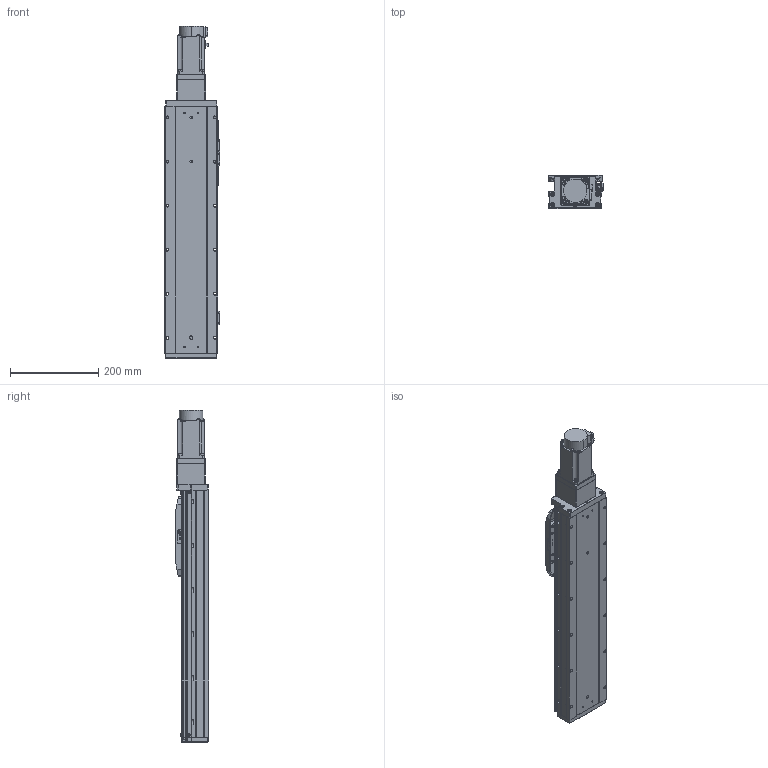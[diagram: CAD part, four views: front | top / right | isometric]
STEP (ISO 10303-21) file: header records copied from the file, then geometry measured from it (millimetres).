
FILE_DESCRIPTION (( 'STEP AP203' ), '1' );
FILE_NAME ('GTH12-350-BC-M40-C4.step', '2022-09-23T01:14:19', ( '微软用户' ), ( '微软中国' ), 'SwSTEP 2.0', 'SolidWorks 2020', '' );
FILE_SCHEMA (( 'CONFIG_CONTROL_DESIGN' ));
Length unit declared in the file: millimetre
Products named in the file (19): GTH120-013; GTH12-350-BC-M40-C4; GTH50-024; GBT 70.1-M3℅6; GBT96.1-2002 3×0.8; BTH-M3X5X6; GBT 70.1-M5×16; GTH120-001_350; CTHA86-006-1_CTHA86-006-2; GBT 70.3-M3℅8; GTH120-003; CTHA86-013; GTH80-022; GTH120-006; CTHA86-027; GTH80-028; GTH120-004; hg-kn43j_-s100_; GTH50-023
Assembly tree (62 placements, depth 2):
  GTH12-350-BC-M40-C4
    GTH120-001_350
    GTH120-003
    GTH120-006
    GTH120-004
    GTH120-013
    GBT 70.1-M3℅6  x14
    GBT 70.1-M5×16  x10
    GBT 70.3-M3℅8  x6
    GTH80-022
    GTH80-028  x2
    GTH50-023  x3
    GTH50-024  x3
    GBT96.1-2002 3×0.8  x6
    BTH-M3X5X6  x8
    CTHA86-006-1_CTHA86-006-2
    CTHA86-013
    CTHA86-027
    hg-kn43j_-s100_
Bounding box: 125.7 x 76 x 753.7 mm (x, y, z)
Volume: 4726988.5 mm3; surface area: 486505.2 mm2
Topology: 64 solids, 64 shells, 2395 faces, 5530 edges, 3367 vertices
Faces by surface type: plane 1232, cylinder 666, cone 319, torus 170, sphere 8
Entity records: 42143 total; most frequent: DIRECTION 7016, CARTESIAN_POINT 6740, ORIENTED_EDGE 6442, EDGE_CURVE 3221, AXIS2_PLACEMENT_3D 2452, VECTOR 2112, LINE 2112, VERTEX_POINT 2026
